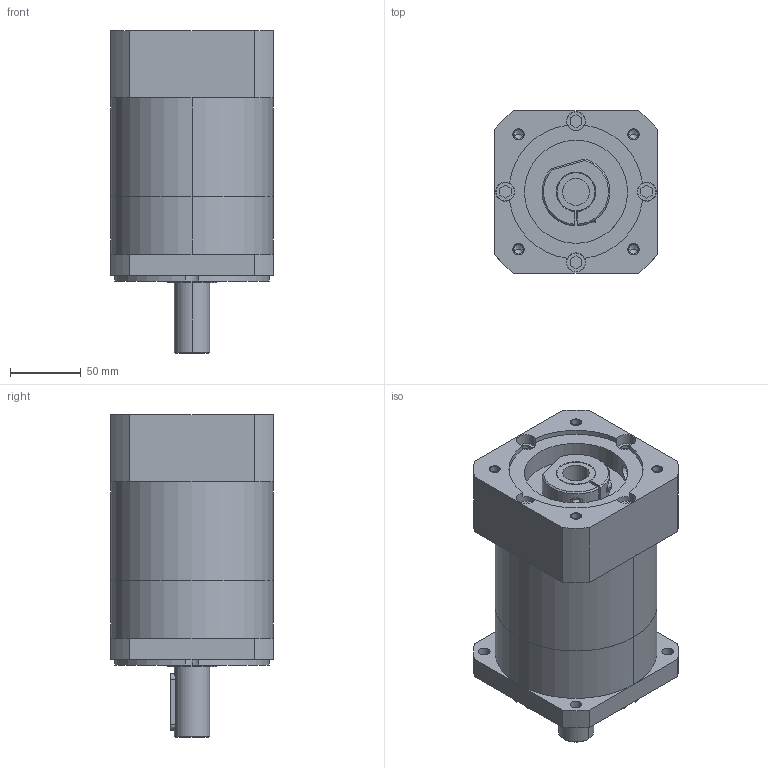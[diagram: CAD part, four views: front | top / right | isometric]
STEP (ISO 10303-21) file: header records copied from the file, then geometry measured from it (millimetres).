
FILE_DESCRIPTION((''),'2;1');
FILE_NAME('PLE120_115_2_ASM','2008-04-11T',('Ille'),(''),'PRO/ENGINEER BY PARAMETRIC TECHNOLOGY CORPORATION, 2005170','PRO/ENGINEER BY PARAMETRIC TECHNOLOGY CORPORATION, 2005170','');
FILE_SCHEMA(('CONFIG_CONTROL_DESIGN'));
Length unit declared in the file: millimetre
Products named in the file (5): PLE120_115_2; 210-288_065-000; M6_10; M8_10; PLE120_115_2_ASM
Assembly tree (11 placements, depth 2):
  PLE120_115_2_ASM
    PLE120_115_2
    210-288_065-000
    M6_10
    M8_10  x8
Bounding box: 115 x 115 x 228.1 mm (x, y, z)
Volume: 1925404.1 mm3; surface area: 157447.2 mm2
Topology: 12 solids, 27 shells, 361 faces, 841 edges, 547 vertices
Faces by surface type: cylinder 161, plane 158, cone 42
Entity records: 7129 total; most frequent: CARTESIAN_POINT 1443, DIRECTION 1279, ORIENTED_EDGE 1042, EDGE_CURVE 537, AXIS2_PLACEMENT_3D 522, VERTEX_POINT 351, EDGE_LOOP 274, CIRCLE 270
